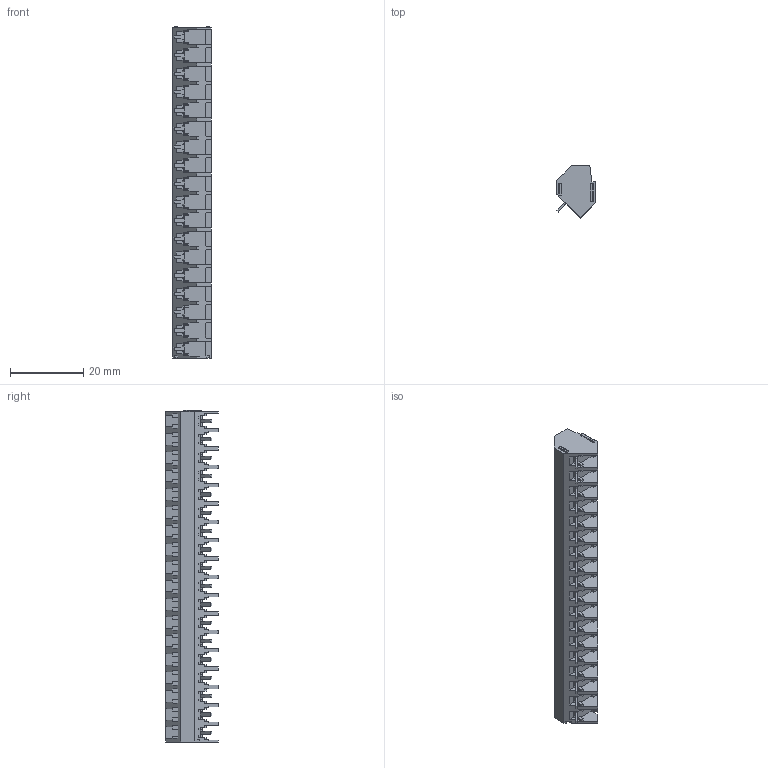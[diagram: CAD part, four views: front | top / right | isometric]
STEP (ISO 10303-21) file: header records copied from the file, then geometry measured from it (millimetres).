
FILE_DESCRIPTION (( 'STEP AP214' ), '1' );
FILE_NAME ('140-C-111-18.STEP', '2007-11-13T06:31:37', ( ' ' ), ( '' ), 'SwSTEP 2.0', 'SolidWorks 2007', '' );
FILE_SCHEMA (( 'AUTOMOTIVE_DESIGN' ));
Length unit declared in the file: millimetre
Products named in the file (1): 140-C-111-18
Bounding box: 10.5 x 14.2 x 90.5 mm (x, y, z)
Volume: 6449.5 mm3; surface area: 7512.8 mm2
Topology: 1 solids, 1 shells, 2170 faces, 6254 edges, 4052 vertices
Faces by surface type: plane 1766, cylinder 260, bspline 90, cone 54
Entity records: 73095 total; most frequent: CARTESIAN_POINT 16821, ORIENTED_EDGE 12508, DIRECTION 10696, EDGE_CURVE 6254, VECTOR 5254, LINE 5254, VERTEX_POINT 4052, AXIS2_PLACEMENT_3D 2721
